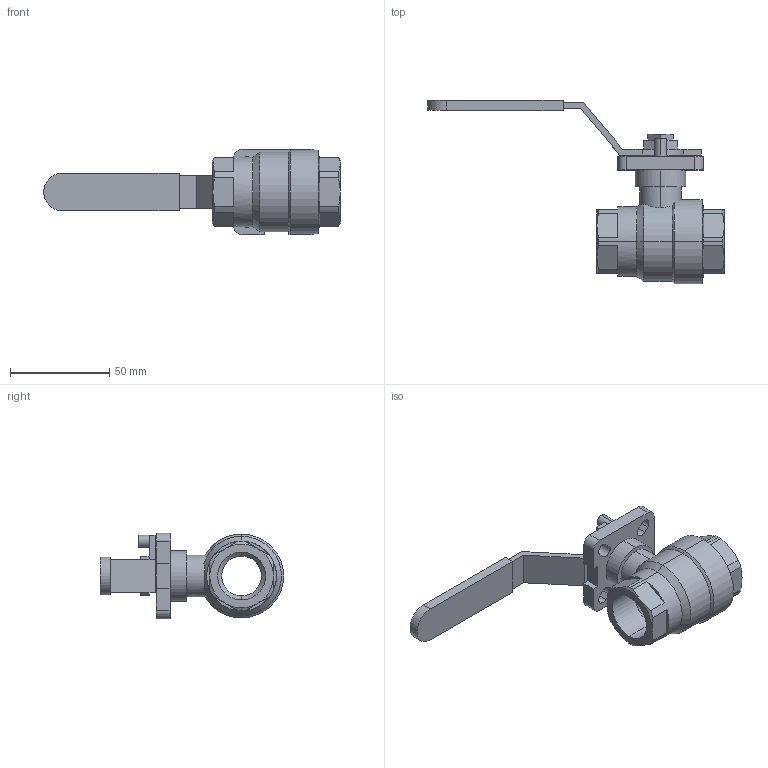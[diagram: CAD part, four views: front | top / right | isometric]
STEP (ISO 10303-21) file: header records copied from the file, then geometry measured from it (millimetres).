
FILE_DESCRIPTION (( 'STEP AP203' ), '1' );
FILE_NAME ('B3.622I020IFVPB0.STEP', '2018-09-28T12:40:12', ( '' ), ( '' ), 'SwSTEP 2.0', 'SolidWorks 2014', '' );
FILE_SCHEMA (( 'CONFIG_CONTROL_DESIGN' ));
Length unit declared in the file: millimetre
Products named in the file (1): B3.622I020IFVPB0
Bounding box: 149 x 92.1 x 43 mm (x, y, z)
Volume: 76414 mm3; surface area: 26211.7 mm2
Topology: 1 solids, 1 shells, 149 faces, 385 edges, 245 vertices
Faces by surface type: plane 80, cylinder 44, cone 25
Entity records: 4799 total; most frequent: CARTESIAN_POINT 1045, ORIENTED_EDGE 770, DIRECTION 761, EDGE_CURVE 385, AXIS2_PLACEMENT_3D 264, VERTEX_POINT 245, LINE 233, VECTOR 233
